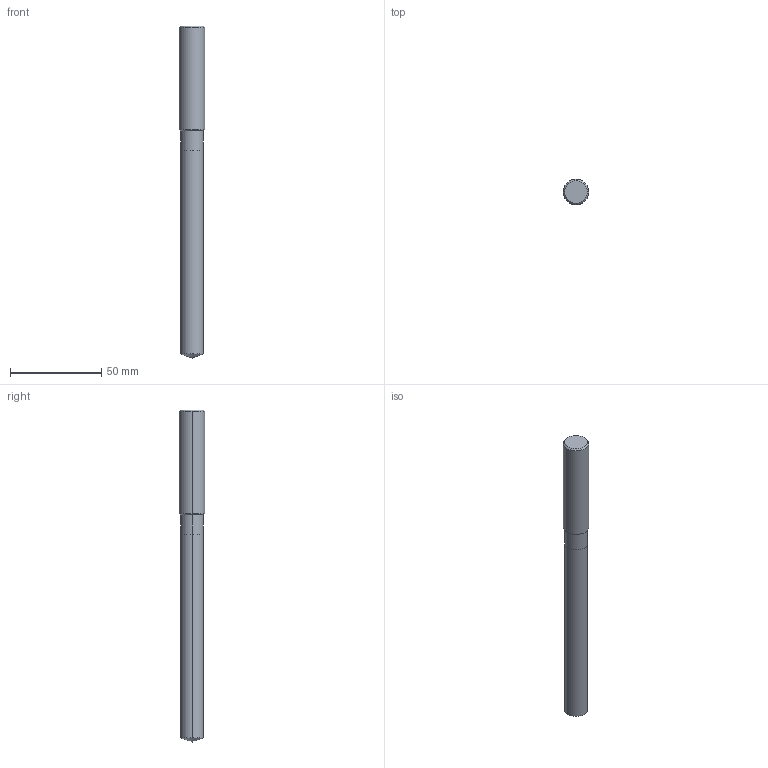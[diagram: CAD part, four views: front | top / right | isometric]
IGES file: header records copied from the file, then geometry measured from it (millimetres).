
Start section: 3D InterOp IGES (v. 2020 1.0.1), Spatial Corp. Copyright (c) 1999-2017.
Global section: file name: WZB12225_12.5.igs; native system: Spatial Corp.; preprocessor: 3D InterOp GENERIC/IGES 3.0; author: Noname; organization: Noname; date: 20201104.104742; units: metre
Bounding box: 14 x 14 x 182 mm (x, y, z)
Surface area: 7608.3 mm2 (no closed solid volume)
Topology: 0 solids, 0 shells, 14 faces, 54 edges, 52 vertices
Faces by surface type: revolution 12, extrusion 2
